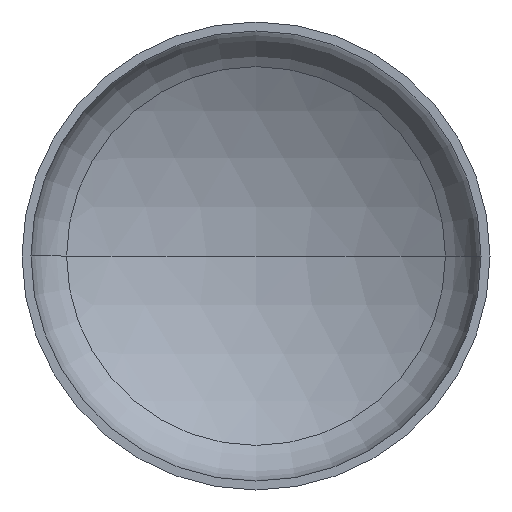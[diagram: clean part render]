
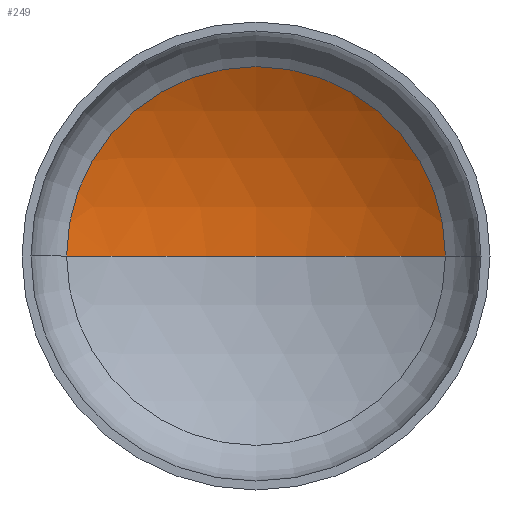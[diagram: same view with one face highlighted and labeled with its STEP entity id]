
A CAD part, front view. The second image highlights one B-rep face of the part: STEP entity #249.
In plain terms, the highlighted spherical face has radius 1920 mm.
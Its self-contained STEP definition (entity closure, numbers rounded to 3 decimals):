
#7 = AXIS2_PLACEMENT_3D ( 'NONE', #243, #226, #409 ) ;
#26 = AXIS2_PLACEMENT_3D ( 'NONE', #401, #372, #395 ) ;
#29 = AXIS2_PLACEMENT_3D ( 'NONE', #248, #407, #251 ) ;
#31 = ORIENTED_EDGE ( 'NONE', *, *, #94, .T. ) ;
#32 = AXIS2_PLACEMENT_3D ( 'NONE', #244, #288, #287 ) ;
#38 = CIRCLE ( 'NONE', #32, 971.148 ) ;
#39 = VERTEX_POINT ( 'NONE', #61 ) ;
#48 = ORIENTED_EDGE ( 'NONE', *, *, #97, .T. ) ;
#61 = CARTESIAN_POINT ( 'NONE',  ( 971.148, 459.179, 0. ) ) ;
#94 = EDGE_CURVE ( 'NONE', #39, #96, #38, .T. ) ;
#96 = VERTEX_POINT ( 'NONE', #298 ) ;
#97 = EDGE_CURVE ( 'NONE', #169, #39, #177, .T. ) ;
#100 = EDGE_CURVE ( 'NONE', #169, #96, #367, .T. ) ;
#104 = ORIENTED_EDGE ( 'NONE', *, *, #100, .F. ) ;
#169 = VERTEX_POINT ( 'NONE', #389 ) ;
#177 = CIRCLE ( 'NONE', #29, 1920. ) ;
#179 = EDGE_LOOP ( 'NONE', ( #104, #48, #31 ) ) ;
#226 = DIRECTION ( 'NONE',  ( 0., 0., -1. ) ) ;
#243 = CARTESIAN_POINT ( 'NONE',  ( 0., -1197.103, 0. ) ) ;
#244 = CARTESIAN_POINT ( 'NONE',  ( 0., 459.179, 0. ) ) ;
#248 = CARTESIAN_POINT ( 'NONE',  ( 0., -1197.103, 0. ) ) ;
#249 = ADVANCED_FACE ( 'NONE', ( #411 ), #360, .F. ) ;
#251 = DIRECTION ( 'NONE',  ( -1., 0., 0. ) ) ;
#287 = DIRECTION ( 'NONE',  ( 1., 0., 0. ) ) ;
#288 = DIRECTION ( 'NONE',  ( 0., -1., 0. ) ) ;
#298 = CARTESIAN_POINT ( 'NONE',  ( -971.148, 459.179, 0. ) ) ;
#360 = SPHERICAL_SURFACE ( 'NONE', #7, 1920. ) ;
#367 = CIRCLE ( 'NONE', #26, 1920. ) ;
#372 = DIRECTION ( 'NONE',  ( 0., 0., 1. ) ) ;
#389 = CARTESIAN_POINT ( 'NONE',  ( 0., 722.897, 0. ) ) ;
#395 = DIRECTION ( 'NONE',  ( 1., 0., 0. ) ) ;
#401 = CARTESIAN_POINT ( 'NONE',  ( 0., -1197.103, 0. ) ) ;
#407 = DIRECTION ( 'NONE',  ( 0., 0., -1. ) ) ;
#409 = DIRECTION ( 'NONE',  ( -1., 0., 0. ) ) ;
#411 = FACE_OUTER_BOUND ( 'NONE', #179, .T. ) ;
